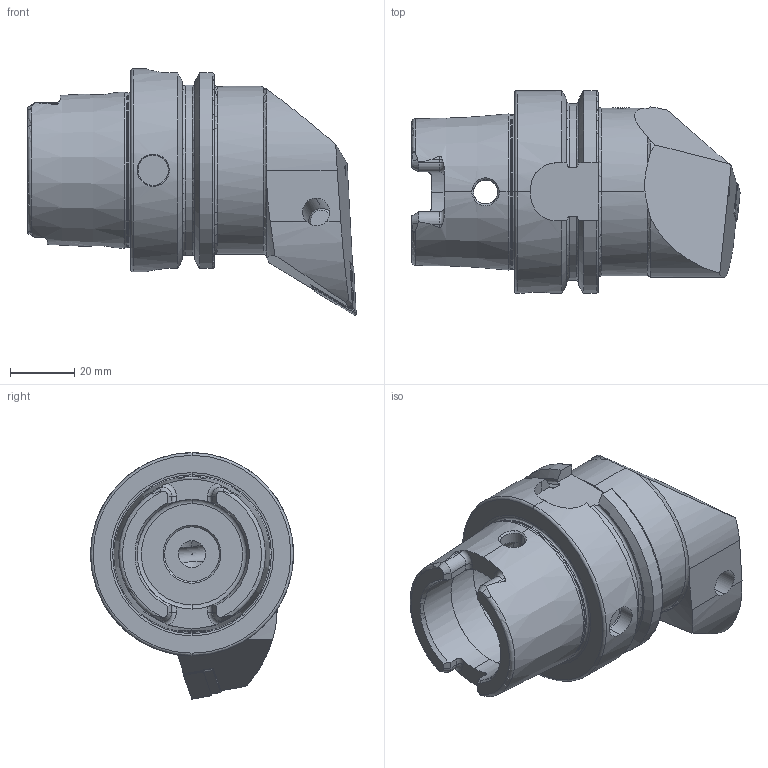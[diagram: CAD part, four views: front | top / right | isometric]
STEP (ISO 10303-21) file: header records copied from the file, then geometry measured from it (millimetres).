
FILE_DESCRIPTION (( 'STEP AP214' ), '1' );
FILE_NAME ('HA6.PDF.RUA.070-HP.STEP', '2020-09-17T06:58:08', ( '' ), ( '' ), 'SwSTEP 2.0', 'SolidWorks 2017', '' );
FILE_SCHEMA (( 'AUTOMOTIVE_DESIGN' ));
Length unit declared in the file: millimetre
Products named in the file (13): CHP-ER1.015.006; CHP-ER1.015.006_A; HA6.PDF.RUA.070-HP; WDF-ER2.101.003_A; ISO 8752 2x8; WCD-ER1.101.000; CHP-ER1.008.014_A; DIN 7991 - M5x15; WCD-ER4.101.017_A; WDF-ER3.101.000_A; DIN 3771 - 13x1; HA6-PDF.RUA.070-HP_A; DNMG150604
Assembly tree (12 placements, depth 3):
  HA6.PDF.RUA.070-HP
    HA6-PDF.RUA.070-HP_A
    DNMG150604
    WDF-ER3.101.000_A
    WCD-ER1.101.000
    WCD-ER4.101.017_A
    WDF-ER2.101.003_A
    CHP-ER1.008.014_A
    ISO 8752 2x8
    CHP-ER1.015.006
      CHP-ER1.015.006_A
      DIN 3771 - 13x1
      DIN 7991 - M5x15
Bounding box: 101.91 x 63 x 76.51 mm (x, y, z)
Volume: 152737.7 mm3; surface area: 36291.5 mm2
Topology: 11 solids, 11 shells, 506 faces, 1268 edges, 769 vertices
Faces by surface type: plane 159, cylinder 139, cone 125, torus 59, bspline 24
Entity records: 18487 total; most frequent: CARTESIAN_POINT 5635, ORIENTED_EDGE 2492, DIRECTION 2395, EDGE_CURVE 1246, AXIS2_PLACEMENT_3D 943, VERTEX_POINT 769, EDGE_LOOP 535, VECTOR 509
